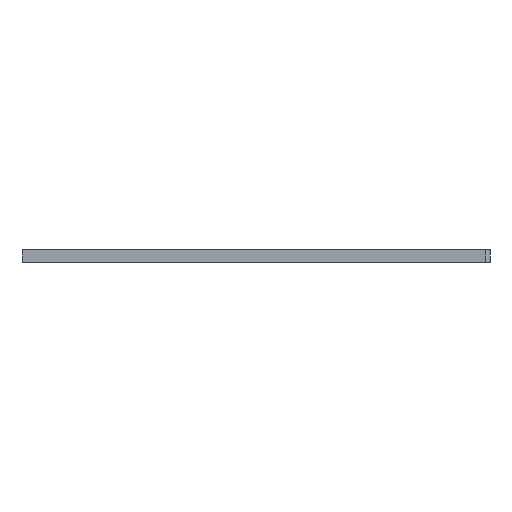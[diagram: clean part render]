
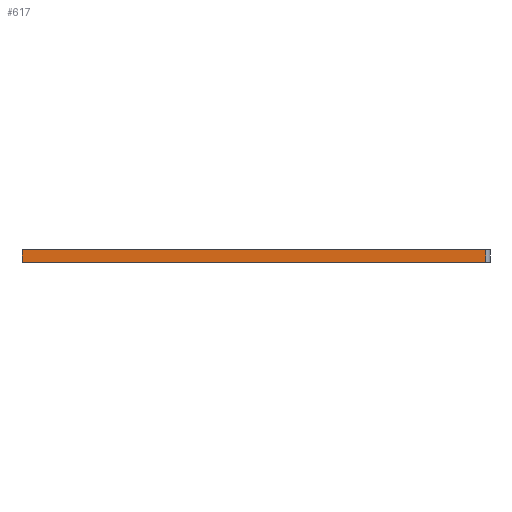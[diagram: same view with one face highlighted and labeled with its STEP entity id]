
A CAD part, front view. The second image highlights one B-rep face of the part: STEP entity #617.
In plain terms, the highlighted planar face has unit normal (0, -1, 0).
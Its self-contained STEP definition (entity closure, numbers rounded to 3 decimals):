
#58 = VECTOR ( 'NONE', #96, 1000. ) ;
#59 = CARTESIAN_POINT ( 'NONE',  ( 110., 0., 1.5 ) ) ;
#61 = CARTESIAN_POINT ( 'NONE',  ( 109., 0., -1.5 ) ) ;
#83 = ORIENTED_EDGE ( 'NONE', *, *, #423, .T. ) ;
#96 = DIRECTION ( 'NONE',  ( 0., 0., 1. ) ) ;
#99 = VERTEX_POINT ( 'NONE', #198 ) ;
#109 = VECTOR ( 'NONE', #223, 1000. ) ;
#110 = CARTESIAN_POINT ( 'NONE',  ( 109., 0., 1.5 ) ) ;
#119 = PLANE ( 'NONE',  #652 ) ;
#125 = CARTESIAN_POINT ( 'NONE',  ( 0., 0., 1.5 ) ) ;
#136 = ORIENTED_EDGE ( 'NONE', *, *, #516, .T. ) ;
#154 = VECTOR ( 'NONE', #452, 1000. ) ;
#159 = CARTESIAN_POINT ( 'NONE',  ( 109., 0., 1.5 ) ) ;
#170 = FACE_OUTER_BOUND ( 'NONE', #726, .T. ) ;
#193 = VERTEX_POINT ( 'NONE', #125 ) ;
#198 = CARTESIAN_POINT ( 'NONE',  ( 0., 0., -1.5 ) ) ;
#207 = VERTEX_POINT ( 'NONE', #110 ) ;
#223 = DIRECTION ( 'NONE',  ( 1., 0., 0. ) ) ;
#258 = VERTEX_POINT ( 'NONE', #61 ) ;
#277 = ORIENTED_EDGE ( 'NONE', *, *, #738, .T. ) ;
#283 = CARTESIAN_POINT ( 'NONE',  ( 110., 0., 1.5 ) ) ;
#318 = DIRECTION ( 'NONE',  ( 0., 0., -1. ) ) ;
#368 = LINE ( 'NONE', #283, #109 ) ;
#415 = CARTESIAN_POINT ( 'NONE',  ( 0., 0., 1.5 ) ) ;
#423 = EDGE_CURVE ( 'NONE', #258, #207, #446, .T. ) ;
#446 = LINE ( 'NONE', #159, #58 ) ;
#452 = DIRECTION ( 'NONE',  ( 1., 0., 0. ) ) ;
#516 = EDGE_CURVE ( 'NONE', #99, #258, #712, .T. ) ;
#518 = CARTESIAN_POINT ( 'NONE',  ( 110., 0., -1.5 ) ) ;
#519 = VECTOR ( 'NONE', #318, 1000. ) ;
#560 = LINE ( 'NONE', #415, #519 ) ;
#592 = ORIENTED_EDGE ( 'NONE', *, *, #678, .F. ) ;
#617 = ADVANCED_FACE ( 'NONE', ( #170 ), #119, .F. ) ;
#618 = DIRECTION ( 'NONE',  ( -1., 0., 0. ) ) ;
#652 = AXIS2_PLACEMENT_3D ( 'NONE', #59, #723, #618 ) ;
#678 = EDGE_CURVE ( 'NONE', #193, #207, #368, .T. ) ;
#712 = LINE ( 'NONE', #518, #154 ) ;
#723 = DIRECTION ( 'NONE',  ( 0., 1., 0. ) ) ;
#726 = EDGE_LOOP ( 'NONE', ( #136, #83, #592, #277 ) ) ;
#738 = EDGE_CURVE ( 'NONE', #193, #99, #560, .T. ) ;
